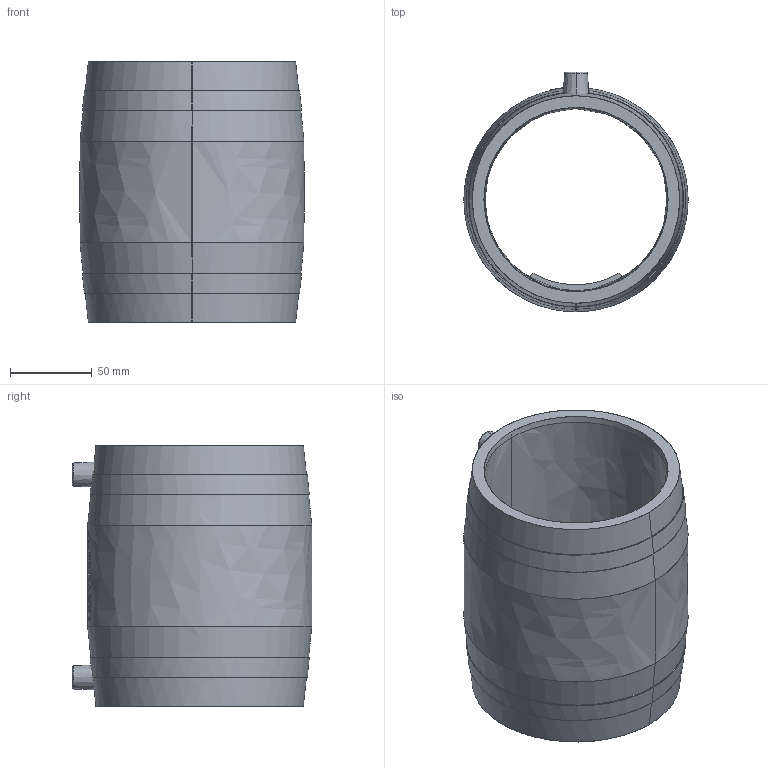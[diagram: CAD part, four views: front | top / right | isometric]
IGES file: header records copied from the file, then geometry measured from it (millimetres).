
Start section:  PTC IGES file: mb_d110_01.igs
Global section: file name: mb_d110_01.igs; native system: Pro/ENGINEER by Parametric Technology Corporation; preprocessor: 2011490; author: mtunjic; organization: Unknown; date: 20130805.164158; units: millimetre
Bounding box: 137 x 146.4 x 159 mm (x, y, z)
Surface area: 130670.6 mm2 (no closed solid volume)
Topology: 0 solids, 0 shells, 172 faces, 878 edges, 878 vertices
Faces by surface type: bspline 172
